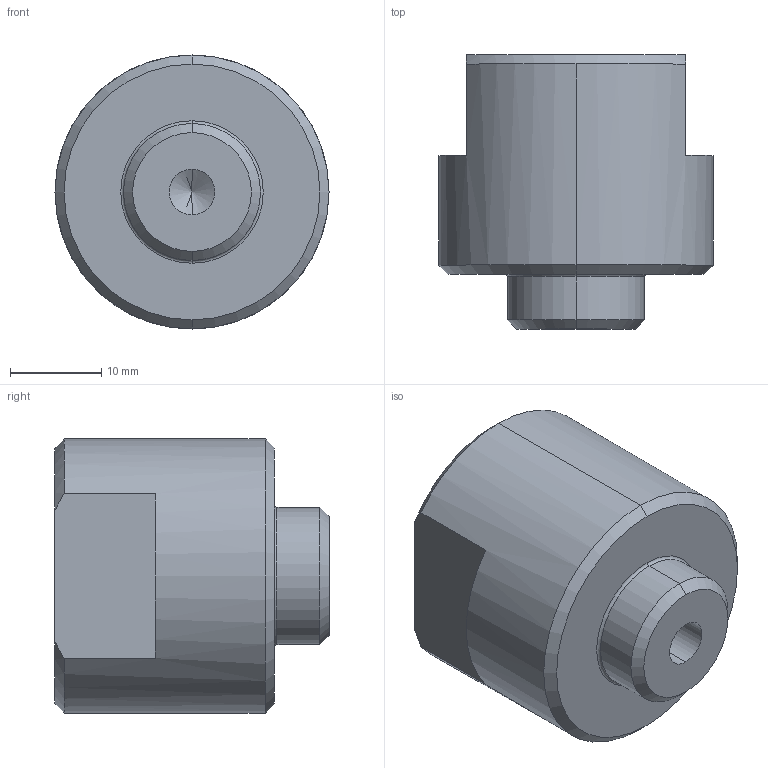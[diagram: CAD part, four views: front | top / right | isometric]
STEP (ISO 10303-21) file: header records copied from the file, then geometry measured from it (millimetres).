
FILE_DESCRIPTION (( 'STEP AP214' ), '1' );
FILE_NAME ('シャフト取付冶具.STEP', '2025-10-18T09:07:19', ( '' ), ( '' ), 'SwSTEP 2.0', 'SolidWorks 2023', '' );
FILE_SCHEMA (( 'AUTOMOTIVE_DESIGN' ));
Length unit declared in the file: millimetre
Products named in the file (1): シャフト取付冶具
Bounding box: 30 x 30 x 30 mm (x, y, z)
Volume: 15979.9 mm3; surface area: 4417.2 mm2
Topology: 1 solids, 1 shells, 33 faces, 74 edges, 44 vertices
Faces by surface type: cone 11, cylinder 10, plane 8, torus 4
Entity records: 1034 total; most frequent: CARTESIAN_POINT 216, DIRECTION 173, ORIENTED_EDGE 144, AXIS2_PLACEMENT_3D 73, EDGE_CURVE 72, VERTEX_POINT 44, CIRCLE 39, EDGE_LOOP 38
